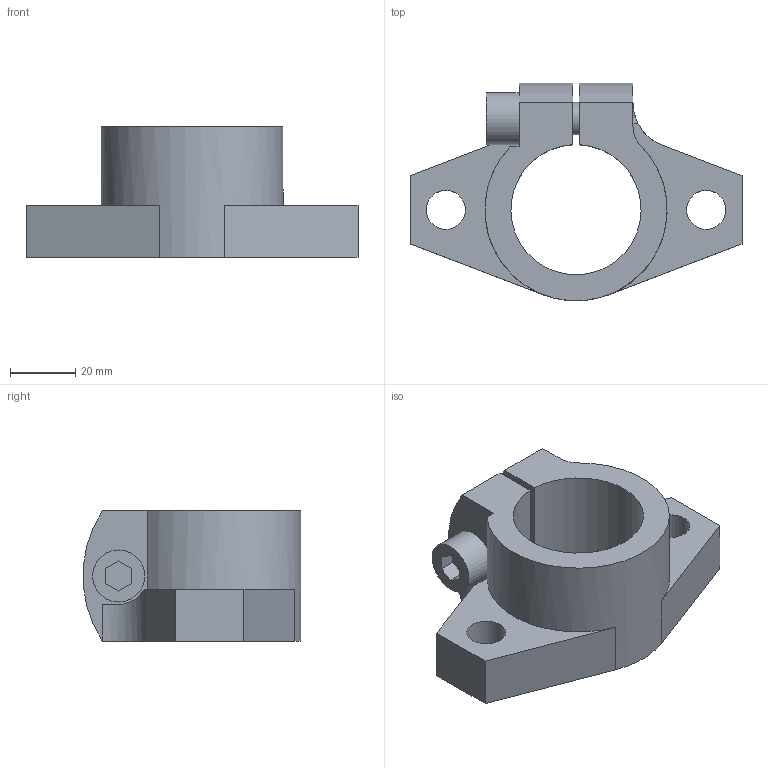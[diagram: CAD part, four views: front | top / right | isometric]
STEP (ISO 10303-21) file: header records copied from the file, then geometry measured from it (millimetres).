
FILE_DESCRIPTION(('STEP AP203'),'1');
FILE_NAME('//192.168.1.1/share/s-4 技術開発/s-4-14_個人別フォルダ/橋詰/09_CAD_DATA/3D/HP用/3Ｄモデル/SNF/SNF-40A.step','2021-09-16T23:49:58',(' '),(' '),'Spatial InterOp 3D',' ',' ');
FILE_SCHEMA(('CONFIG_CONTROL_DESIGN'));
Length unit declared in the file: millimetre
Products named in the file (2): 1; 2
Bounding box: 102 x 66.8 x 40 mm (x, y, z)
Volume: 86776.6 mm3; surface area: 25313.5 mm2
Topology: 2 solids, 2 shells, 44 faces, 117 edges, 78 vertices
Faces by surface type: plane 28, cylinder 15, cone 1
Full cylindrical faces by diameter (mm): 8.5 x1, 10 x2, 11 x1, 12 x2, 16 x1
Entity records: 1473 total; most frequent: CARTESIAN_POINT 297, DIRECTION 227, ORIENTED_EDGE 212, EDGE_CURVE 106, AXIS2_PLACEMENT_3D 79, VERTEX_POINT 75, LINE 69, VECTOR 69
